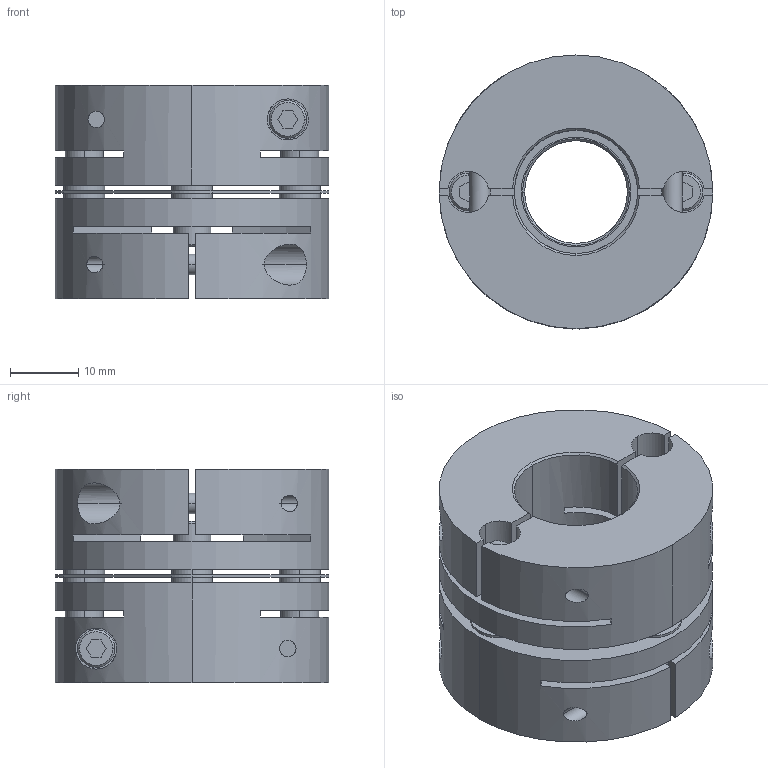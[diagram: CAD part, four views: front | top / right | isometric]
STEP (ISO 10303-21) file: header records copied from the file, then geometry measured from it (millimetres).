
FILE_DESCRIPTION((''),'2;1');
FILE_NAME('LAS-40C-15×18.stp','2014-02-05T09:00:57',(''),(''),'AutoCAD STEP 2000i','AutoCAD 2000i',', , ');
FILE_SCHEMA(('CONFIG_CONTROL_DESIGN'));
Length unit declared in the file: millimetre
Products named in the file (7): LAS-40C-15×15; 忣兜1; LA-4002-D15-1; LA-4002-D15; LA-4002-D10-1; LA-4002-D10; LAS40-ITA
Assembly tree (6 placements, depth 2):
  LAS-40C-15×15
    忣兜1
    LA-4002-D15-1
    LA-4002-D15
    LA-4002-D10-1
    LA-4002-D10
    LAS40-ITA
Bounding box: 40 x 40 x 31.2 mm (x, y, z)
Volume: 27982.3 mm3; surface area: 14991.4 mm2
Topology: 1 solids, 1 shells, 236 faces, 624 edges, 408 vertices
Faces by surface type: plane 112, cylinder 96, cone 28
Entity records: 8247 total; most frequent: CARTESIAN_POINT 2027, DIRECTION 1306, ORIENTED_EDGE 1248, EDGE_CURVE 624, AXIS2_PLACEMENT_3D 479, VERTEX_POINT 408, VECTOR 348, LINE 348
